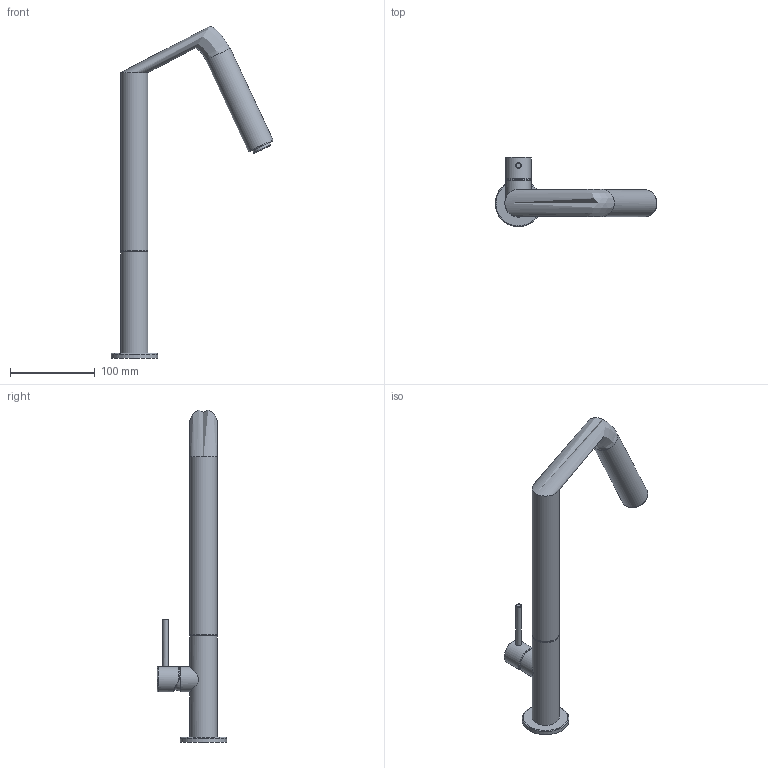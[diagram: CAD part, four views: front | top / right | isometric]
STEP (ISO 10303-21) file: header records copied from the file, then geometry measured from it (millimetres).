
FILE_DESCRIPTION(('STEP AP242'), '1');
FILE_NAME('78CR572USLMKM', '', ('UNSPECIFIED'), ('UNSPECIFIED'), 'ASCON STEP Converter 1.6', 'ASCON Math Kernel', '');
FILE_SCHEMA(('AP242_MANAGED_MODEL_BASED_3D_ENGINEERING_MIM_LF { 1 0 10303 442 1 1 4 }'));
Length unit declared in the file: millimetre
Bounding box: 190.91 x 82.09 x 391.49 mm (x, y, z)
Volume: 380377.4 mm3; surface area: 61789.6 mm2
Topology: 2 solids, 2 shells, 33 faces, 60 edges, 37 vertices
Faces by surface type: plane 12, cylinder 9, torus 7, bspline 3, revolution 1, sphere 1
Full cylindrical faces by diameter (mm): 6.5 x1, 18 x1, 22.001 x1, 30 x2, 30.005 x1, 32 x2, 55 x1
Entity records: 2307 total; most frequent: CARTESIAN_POINT 1446, DIRECTION 116, ORIENTED_EDGE 76, EDGE_LOOP 59, AXIS2_PLACEMENT_3D 57, EDGE_CURVE 38, COLOUR_RGB 35, FILL_AREA_STYLE_COLOUR 35
